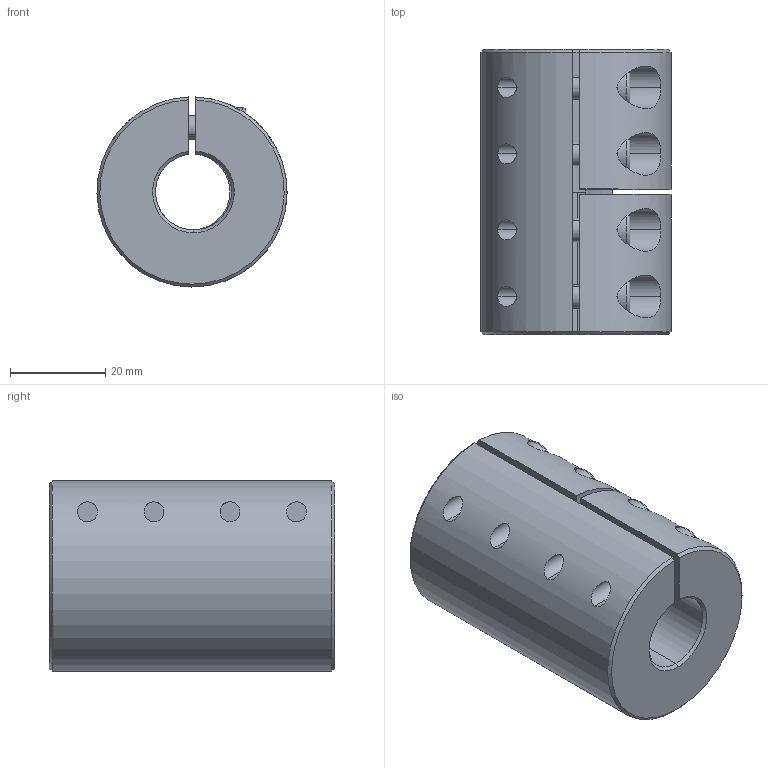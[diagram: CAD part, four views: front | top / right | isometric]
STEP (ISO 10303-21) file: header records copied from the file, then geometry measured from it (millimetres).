
FILE_DESCRIPTION (( 'STEP AP214' ), '1' );
FILE_NAME ('LL-B-D40L60-16-16½¨Ä£.STEP', '2022-07-22T01:02:22', ( '' ), ( '' ), 'SwSTEP 2.0', 'SolidWorks 2022', '' );
FILE_SCHEMA (( 'AUTOMOTIVE_DESIGN' ));
Length unit declared in the file: millimetre
Products named in the file (1): LL-B-D40L60-16-16膘耀
Bounding box: 40 x 60 x 39.99 mm (x, y, z)
Volume: 60221.2 mm3; surface area: 17276.6 mm2
Topology: 1 solids, 1 shells, 177 faces, 446 edges, 279 vertices
Faces by surface type: plane 85, cylinder 70, cone 14, torus 8
Entity records: 5827 total; most frequent: CARTESIAN_POINT 1479, DIRECTION 947, ORIENTED_EDGE 876, EDGE_CURVE 438, AXIS2_PLACEMENT_3D 371, VERTEX_POINT 279, EDGE_LOOP 209, LINE 205
